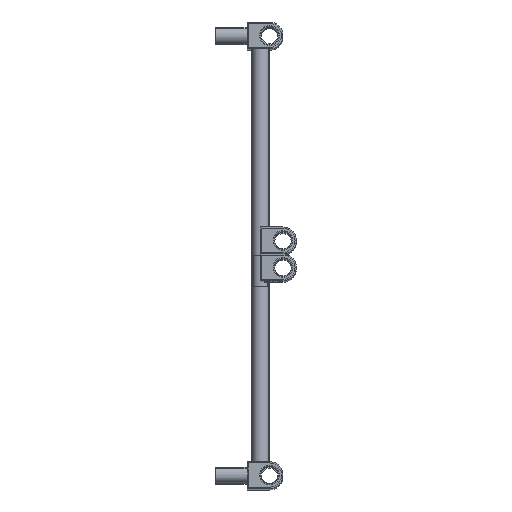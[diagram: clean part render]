
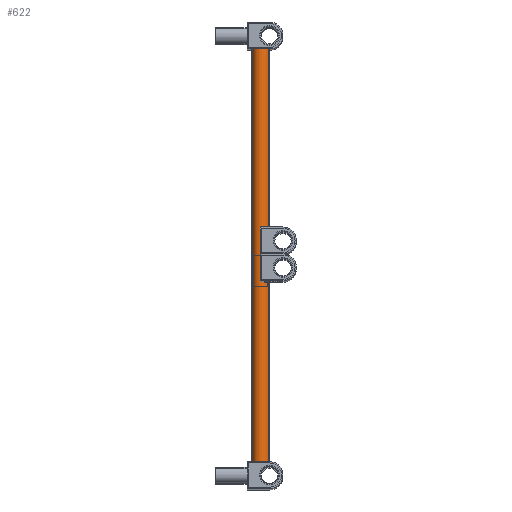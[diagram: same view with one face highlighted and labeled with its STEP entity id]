
A CAD part, top view. The second image highlights one B-rep face of the part: STEP entity #622.
In plain terms, the highlighted cylindrical face has radius 10 mm (diameter 20 mm), a full revolution.
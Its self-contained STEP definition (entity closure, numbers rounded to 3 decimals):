
#622 = ADVANCED_FACE( '', ( #1012, #1013 ), #1014, .T. );
#1012 = FACE_OUTER_BOUND( '', #1249, .T. );
#1013 = FACE_OUTER_BOUND( '', #1250, .T. );
#1014 = CYLINDRICAL_SURFACE( '', #1251, 10. );
#1249 = EDGE_LOOP( '', ( #1760 ) );
#1250 = EDGE_LOOP( '', ( #1761 ) );
#1251 = AXIS2_PLACEMENT_3D( '', #1762, #1763, #1764 );
#1760 = ORIENTED_EDGE( '', *, *, #2117, .T. );
#1761 = ORIENTED_EDGE( '', *, *, #2118, .F. );
#1762 = CARTESIAN_POINT( '', ( 0., -230., 0. ) );
#1763 = DIRECTION( '', ( 0., -1., 0. ) );
#1764 = DIRECTION( '', ( 0., 0., 1. ) );
#2117 = EDGE_CURVE( '', #2455, #2455, #2456, .T. );
#2118 = EDGE_CURVE( '', #2457, #2457, #2458, .T. );
#2455 = VERTEX_POINT( '', #2701 );
#2456 = CIRCLE( '', #2702, 10. );
#2457 = VERTEX_POINT( '', #2703 );
#2458 = CIRCLE( '', #2704, 10. );
#2701 = CARTESIAN_POINT( '', ( 10., -230., 0. ) );
#2702 = AXIS2_PLACEMENT_3D( '', #2913, #2914, #2915 );
#2703 = CARTESIAN_POINT( '', ( 10., 230., 0. ) );
#2704 = AXIS2_PLACEMENT_3D( '', #2916, #2917, #2918 );
#2913 = CARTESIAN_POINT( '', ( 0., -230., 0. ) );
#2914 = DIRECTION( '', ( 0., 1., 0. ) );
#2915 = DIRECTION( '', ( 1., 0., 0. ) );
#2916 = CARTESIAN_POINT( '', ( 0., 230., 0. ) );
#2917 = DIRECTION( '', ( 0., 1., 0. ) );
#2918 = DIRECTION( '', ( 1., 0., 0. ) );
